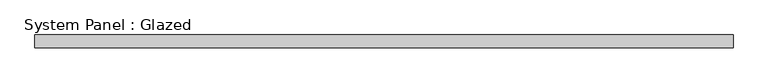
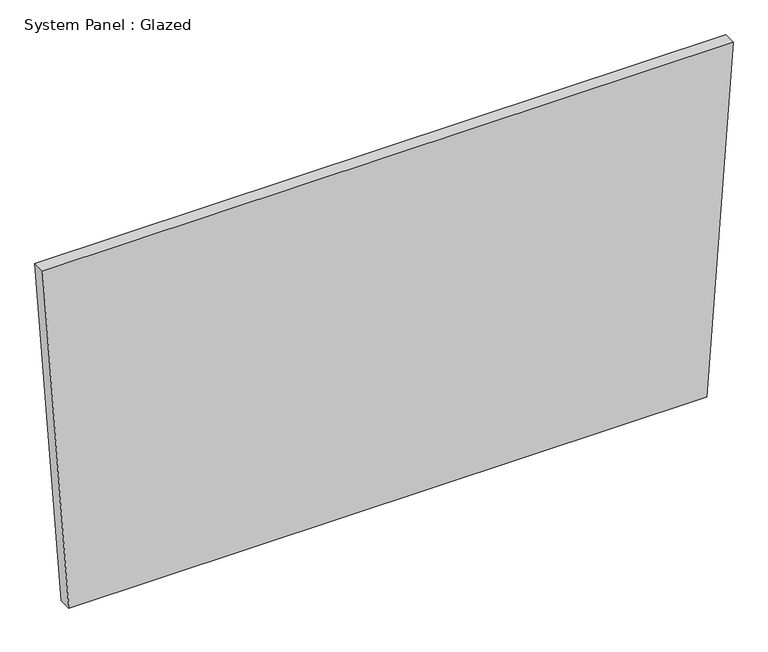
"""IFC4 building model written with IfcOpenShell, lengths in millimetres: plate geometry, System Panel : Glazed."""

from ifc_helpers import new_model, si_unit, frame, origin, place, context, project, spatial, polyline, outline, extrude, source, transform, mapped, element, save


def system_panel_glazed_1d632c2c(model_context):
    return source(origin(), model_context, "Body", "SweptSolid", [
        extrude(outline(polyline([(0.008302, -629.7564095), (0.0, 629.7557881), (723.0523526, 681.7652926), (723.0520152, -681.7652926), (0.008302, -629.7564095)])), frame((0.0, 19.05, 0.0), z_axis=(0.0, 1.0, 0.0), x_axis=(0.0, 0.0, 1.0)), (0.0, 0.0, 1.0), 25.4),
    ])


if __name__ == "__main__":
    model = new_model("IFC4")
    model_context = context("Model", 3, world=origin())
    ifc_project = project(units=[si_unit("LENGTHUNIT", "METRE", prefix="MILLI")], contexts=[model_context])
    site = spatial("IfcSite", under=ifc_project)
    building = spatial("IfcBuilding", under=site)
    placement = place(None, origin())
    system_panel_glazed_shape = system_panel_glazed_1d632c2c(model_context)
    element("IfcPlate", 1, ObjectType="System Panel : Glazed", at=placement, inside=building, context=model_context, shape_type="MappedRepresentation", body=[
        mapped(system_panel_glazed_shape, transform((0.0, 0.0, 0.0), x_axis=(1.0, 0.0, 0.0), y_axis=(0.0, 1.0, 0.0), z_axis=(0.0, 0.0, 1.0))),
    ])
    save(model, "model.ifc")
